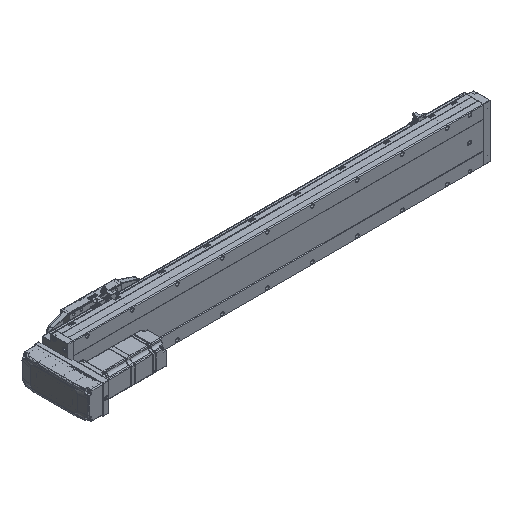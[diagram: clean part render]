
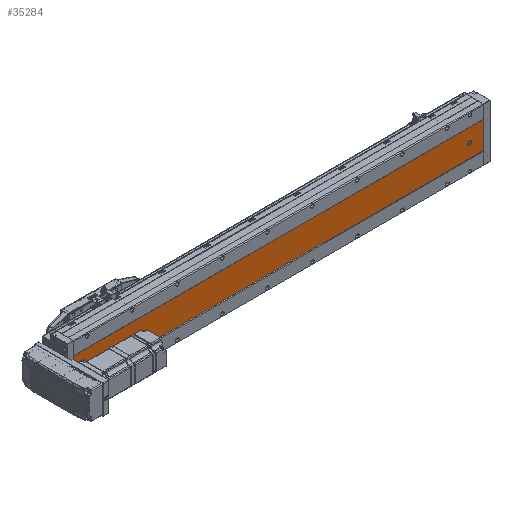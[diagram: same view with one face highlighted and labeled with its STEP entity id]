
A CAD part, isometric view. The second image highlights one B-rep face of the part: STEP entity #35284.
In plain terms, the highlighted planar face has unit normal (0, -1, 0).
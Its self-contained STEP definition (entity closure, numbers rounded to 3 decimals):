
#10 = CARTESIAN_POINT ( 'NONE',  ( -39.892, -52.848, 884.5 ) ) ;
#84 = DIRECTION ( 'NONE',  ( 0., 1., 0. ) ) ;
#390 = AXIS2_PLACEMENT_3D ( 'NONE', #25154, #84, #68583 ) ;
#519 = CARTESIAN_POINT ( 'NONE',  ( -39.892, -52.848, 781. ) ) ;
#1827 = VECTOR ( 'NONE', #48937, 1000. ) ;
#1995 = VERTEX_POINT ( 'NONE', #48307 ) ;
#2170 = EDGE_CURVE ( 'NONE', #77962, #50904, #71126, .T. ) ;
#4100 = EDGE_CURVE ( 'NONE', #72849, #70668, #10950, .T. ) ;
#4282 = DIRECTION ( 'NONE',  ( 0., 1., 0. ) ) ;
#4320 = EDGE_CURVE ( 'NONE', #50904, #29428, #63109, .T. ) ;
#5225 = ORIENTED_EDGE ( 'NONE', *, *, #54212, .T. ) ;
#5476 = CIRCLE ( 'NONE', #73656, 3.5 ) ;
#5792 = DIRECTION ( 'NONE',  ( 0., 0., 1. ) ) ;
#6288 = DIRECTION ( 'NONE',  ( 0., 1., 0. ) ) ;
#6309 = ORIENTED_EDGE ( 'NONE', *, *, #4100, .T. ) ;
#6692 = DIRECTION ( 'NONE',  ( 0., 0., 1. ) ) ;
#6838 = AXIS2_PLACEMENT_3D ( 'NONE', #519, #12078, #6692 ) ;
#7004 = CARTESIAN_POINT ( 'NONE',  ( -69.892, -52.848, 911. ) ) ;
#7775 = CARTESIAN_POINT ( 'NONE',  ( -9.892, -52.848, 0. ) ) ;
#8804 = CARTESIAN_POINT ( 'NONE',  ( -39.892, -52.848, 30. ) ) ;
#8853 = VERTEX_POINT ( 'NONE', #78382 ) ;
#9619 = DIRECTION ( 'NONE',  ( 0., 0., -1. ) ) ;
#10950 = CIRCLE ( 'NONE', #46418, 3.5 ) ;
#12078 = DIRECTION ( 'NONE',  ( 0., 1., 0. ) ) ;
#12122 = CARTESIAN_POINT ( 'NONE',  ( -69.892, -52.848, 911. ) ) ;
#12193 = EDGE_LOOP ( 'NONE', ( #53254, #57066 ) ) ;
#12760 = CARTESIAN_POINT ( 'NONE',  ( -69.892, -52.848, 0. ) ) ;
#15430 = ORIENTED_EDGE ( 'NONE', *, *, #31677, .T. ) ;
#15584 = CIRCLE ( 'NONE', #6838, 3.5 ) ;
#16089 = ORIENTED_EDGE ( 'NONE', *, *, #61133, .F. ) ;
#18645 = DIRECTION ( 'NONE',  ( 1., 0., 0. ) ) ;
#18816 = LINE ( 'NONE', #58294, #68077 ) ;
#19046 = CARTESIAN_POINT ( 'NONE',  ( -43.392, -52.848, 911. ) ) ;
#21214 = ORIENTED_EDGE ( 'NONE', *, *, #30628, .T. ) ;
#21227 = CARTESIAN_POINT ( 'NONE',  ( -43.392, -52.848, 32. ) ) ;
#22007 = LINE ( 'NONE', #7004, #44275 ) ;
#22112 = DIRECTION ( 'NONE',  ( 0., 0., 1. ) ) ;
#25154 = CARTESIAN_POINT ( 'NONE',  ( -39.892, -52.848, 881. ) ) ;
#25186 = VERTEX_POINT ( 'NONE', #47341 ) ;
#25262 = EDGE_CURVE ( 'NONE', #29428, #41538, #31543, .T. ) ;
#25819 = DIRECTION ( 'NONE',  ( 0., 0., 1. ) ) ;
#26865 = ORIENTED_EDGE ( 'NONE', *, *, #25262, .T. ) ;
#27447 = AXIS2_PLACEMENT_3D ( 'NONE', #8804, #76833, #46674 ) ;
#27698 = CIRCLE ( 'NONE', #50642, 3.5 ) ;
#29428 = VERTEX_POINT ( 'NONE', #50687 ) ;
#29635 = EDGE_CURVE ( 'NONE', #70668, #72849, #56789, .T. ) ;
#30247 = CARTESIAN_POINT ( 'NONE',  ( -36.392, -52.848, 30. ) ) ;
#30628 = EDGE_CURVE ( 'NONE', #1995, #54648, #65245, .T. ) ;
#31543 = LINE ( 'NONE', #72870, #53803 ) ;
#31677 = EDGE_CURVE ( 'NONE', #41538, #76131, #38941, .T. ) ;
#33185 = VERTEX_POINT ( 'NONE', #41950 ) ;
#33838 = ORIENTED_EDGE ( 'NONE', *, *, #34140, .F. ) ;
#34140 = EDGE_CURVE ( 'NONE', #67542, #54648, #18816, .T. ) ;
#34532 = EDGE_LOOP ( 'NONE', ( #59954, #26865, #15430, #42463, #76488 ) ) ;
#34834 = CARTESIAN_POINT ( 'NONE',  ( -39.892, -52.848, 881. ) ) ;
#35284 = ADVANCED_FACE ( 'NONE', ( #68851, #47707, #57370, #43790 ), #49550, .F. ) ;
#37849 = CARTESIAN_POINT ( 'NONE',  ( -9.892, -52.848, 911. ) ) ;
#38941 = CIRCLE ( 'NONE', #27447, 3.5 ) ;
#39081 = DIRECTION ( 'NONE',  ( 0., 0., 1. ) ) ;
#39876 = CARTESIAN_POINT ( 'NONE',  ( -39.892, -52.848, 30. ) ) ;
#40393 = DIRECTION ( 'NONE',  ( 0., 0., 1. ) ) ;
#40887 = ORIENTED_EDGE ( 'NONE', *, *, #29635, .T. ) ;
#41538 = VERTEX_POINT ( 'NONE', #30247 ) ;
#41950 = CARTESIAN_POINT ( 'NONE',  ( -39.892, -52.848, 777.5 ) ) ;
#42463 = ORIENTED_EDGE ( 'NONE', *, *, #50933, .T. ) ;
#42793 = DIRECTION ( 'NONE',  ( 0., 1., 0. ) ) ;
#43790 = FACE_OUTER_BOUND ( 'NONE', #72097, .T. ) ;
#43832 = CARTESIAN_POINT ( 'NONE',  ( -69.892, -52.848, 911. ) ) ;
#44275 = VECTOR ( 'NONE', #18645, 1000. ) ;
#46418 = AXIS2_PLACEMENT_3D ( 'NONE', #34834, #4282, #22112 ) ;
#46674 = DIRECTION ( 'NONE',  ( 0., 0., 1. ) ) ;
#46975 = CARTESIAN_POINT ( 'NONE',  ( -39.892, -52.848, 26.5 ) ) ;
#47232 = CARTESIAN_POINT ( 'NONE',  ( -43.392, -52.848, 30. ) ) ;
#47341 = CARTESIAN_POINT ( 'NONE',  ( -69.892, -52.848, 911. ) ) ;
#47707 = FACE_BOUND ( 'NONE', #12193, .T. ) ;
#48307 = CARTESIAN_POINT ( 'NONE',  ( -69.892, -52.848, 0. ) ) ;
#48937 = DIRECTION ( 'NONE',  ( 0., 0., -1. ) ) ;
#49550 = PLANE ( 'NONE',  #66431 ) ;
#50642 = AXIS2_PLACEMENT_3D ( 'NONE', #55777, #42793, #5792 ) ;
#50687 = CARTESIAN_POINT ( 'NONE',  ( -36.392, -52.848, 32. ) ) ;
#50904 = VERTEX_POINT ( 'NONE', #21227 ) ;
#50933 = EDGE_CURVE ( 'NONE', #76131, #77962, #5476, .T. ) ;
#53254 = ORIENTED_EDGE ( 'NONE', *, *, #62190, .T. ) ;
#53803 = VECTOR ( 'NONE', #54626, 1000. ) ;
#54212 = EDGE_CURVE ( 'NONE', #25186, #1995, #59850, .T. ) ;
#54626 = DIRECTION ( 'NONE',  ( 0., 0., -1. ) ) ;
#54648 = VERTEX_POINT ( 'NONE', #7775 ) ;
#55237 = EDGE_LOOP ( 'NONE', ( #40887, #6309 ) ) ;
#55654 = VECTOR ( 'NONE', #73795, 1000. ) ;
#55777 = CARTESIAN_POINT ( 'NONE',  ( -39.892, -52.848, 781. ) ) ;
#56789 = CIRCLE ( 'NONE', #390, 3.5 ) ;
#57066 = ORIENTED_EDGE ( 'NONE', *, *, #72891, .T. ) ;
#57370 = FACE_BOUND ( 'NONE', #55237, .T. ) ;
#58294 = CARTESIAN_POINT ( 'NONE',  ( -9.892, -52.848, 911. ) ) ;
#59850 = LINE ( 'NONE', #12122, #1827 ) ;
#59954 = ORIENTED_EDGE ( 'NONE', *, *, #4320, .T. ) ;
#60596 = VECTOR ( 'NONE', #25819, 1000. ) ;
#61133 = EDGE_CURVE ( 'NONE', #25186, #67542, #22007, .T. ) ;
#61941 = DIRECTION ( 'NONE',  ( 0., 0., 1. ) ) ;
#62190 = EDGE_CURVE ( 'NONE', #33185, #8853, #27698, .T. ) ;
#62915 = AXIS2_PLACEMENT_3D ( 'NONE', #77337, #76804, #40393 ) ;
#63109 = CIRCLE ( 'NONE', #62915, 3.5 ) ;
#63195 = CARTESIAN_POINT ( 'NONE',  ( -39.892, -52.848, 877.5 ) ) ;
#65245 = LINE ( 'NONE', #12760, #55654 ) ;
#66431 = AXIS2_PLACEMENT_3D ( 'NONE', #43832, #6288, #61941 ) ;
#67542 = VERTEX_POINT ( 'NONE', #37849 ) ;
#68077 = VECTOR ( 'NONE', #9619, 1000. ) ;
#68583 = DIRECTION ( 'NONE',  ( 0., 0., 1. ) ) ;
#68851 = FACE_BOUND ( 'NONE', #34532, .T. ) ;
#70668 = VERTEX_POINT ( 'NONE', #63195 ) ;
#71126 = LINE ( 'NONE', #19046, #60596 ) ;
#72097 = EDGE_LOOP ( 'NONE', ( #21214, #33838, #16089, #5225 ) ) ;
#72849 = VERTEX_POINT ( 'NONE', #10 ) ;
#72870 = CARTESIAN_POINT ( 'NONE',  ( -36.392, -52.848, 911. ) ) ;
#72891 = EDGE_CURVE ( 'NONE', #8853, #33185, #15584, .T. ) ;
#73656 = AXIS2_PLACEMENT_3D ( 'NONE', #39876, #76003, #39081 ) ;
#73795 = DIRECTION ( 'NONE',  ( 1., 0., 0. ) ) ;
#76003 = DIRECTION ( 'NONE',  ( 0., 1., 0. ) ) ;
#76131 = VERTEX_POINT ( 'NONE', #46975 ) ;
#76488 = ORIENTED_EDGE ( 'NONE', *, *, #2170, .T. ) ;
#76804 = DIRECTION ( 'NONE',  ( 0., 1., 0. ) ) ;
#76833 = DIRECTION ( 'NONE',  ( 0., 1., 0. ) ) ;
#77337 = CARTESIAN_POINT ( 'NONE',  ( -39.892, -52.848, 32. ) ) ;
#77962 = VERTEX_POINT ( 'NONE', #47232 ) ;
#78382 = CARTESIAN_POINT ( 'NONE',  ( -39.892, -52.848, 784.5 ) ) ;
